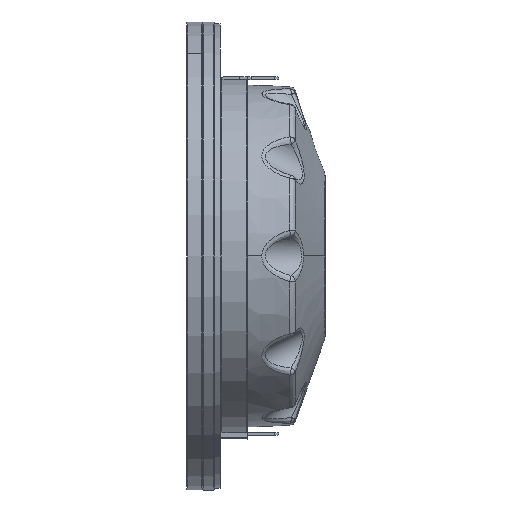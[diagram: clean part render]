
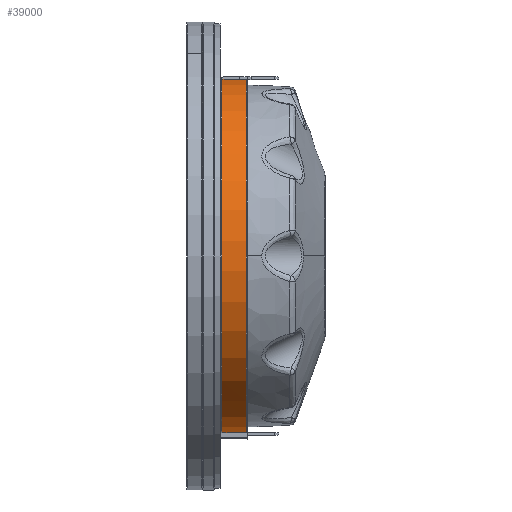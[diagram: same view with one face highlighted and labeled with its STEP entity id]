
A CAD part, left-side view. The second image highlights one B-rep face of the part: STEP entity #39000.
In plain terms, the highlighted cylindrical face has radius 45.5 mm (diameter 91 mm), a partial arc.
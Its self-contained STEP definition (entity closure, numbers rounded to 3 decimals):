
#1043 = DIRECTION ( 'NONE',  ( 0., 1., 0. ) ) ;
#1827 = LINE ( 'NONE', #40349, #48334 ) ;
#2293 = ORIENTED_EDGE ( 'NONE', *, *, #32984, .T. ) ;
#4717 = DIRECTION ( 'NONE',  ( 0., 0., -1. ) ) ;
#5268 = VERTEX_POINT ( 'NONE', #39009 ) ;
#5504 = VERTEX_POINT ( 'NONE', #54759 ) ;
#5723 = EDGE_CURVE ( 'NONE', #54815, #39613, #1827, .T. ) ;
#6013 = CARTESIAN_POINT ( 'NONE',  ( -4., 22.95, 45.324 ) ) ;
#6177 = CARTESIAN_POINT ( 'NONE',  ( -4., 16.7, 45.324 ) ) ;
#6977 = DIRECTION ( 'NONE',  ( 0., 0., -1. ) ) ;
#7184 = LINE ( 'NONE', #45691, #18230 ) ;
#8592 = AXIS2_PLACEMENT_3D ( 'NONE', #33637, #20735, #55605 ) ;
#10266 = CARTESIAN_POINT ( 'NONE',  ( -4., 17.789, -45.324 ) ) ;
#10931 =( BOUNDED_CURVE ( )  B_SPLINE_CURVE ( 3, ( #10266, #35809, #45389, #27436 ),
 .UNSPECIFIED., .F., .T. ) 
 B_SPLINE_CURVE_WITH_KNOTS ( ( 4, 4 ),
 ( 4.8, 4.801 ),
 .UNSPECIFIED. ) 
 CURVE ( )  GEOMETRIC_REPRESENTATION_ITEM ( )  RATIONAL_B_SPLINE_CURVE ( ( 1., 1., 1., 1. ) ) 
 REPRESENTATION_ITEM ( '' )  );
#12572 = EDGE_CURVE ( 'NONE', #41587, #5504, #7184, .T. ) ;
#15592 = DIRECTION ( 'NONE',  ( 0., -1., 0. ) ) ;
#18230 = VECTOR ( 'NONE', #15592, 1000. ) ;
#19305 = AXIS2_PLACEMENT_3D ( 'NONE', #49703, #40410, #6977 ) ;
#20735 = DIRECTION ( 'NONE',  ( 0., -1., 0. ) ) ;
#22473 = EDGE_CURVE ( 'NONE', #5504, #5268, #10931, .T. ) ;
#24017 = ORIENTED_EDGE ( 'NONE', *, *, #28157, .T. ) ;
#26135 = CARTESIAN_POINT ( 'NONE',  ( 0., 16.7, 0. ) ) ;
#27343 = CARTESIAN_POINT ( 'NONE',  ( -4., 22.95, -45.324 ) ) ;
#27436 = CARTESIAN_POINT ( 'NONE',  ( -4.019, 16.7, -45.322 ) ) ;
#28157 = EDGE_CURVE ( 'NONE', #39613, #41587, #39998, .T. ) ;
#29538 = AXIS2_PLACEMENT_3D ( 'NONE', #26135, #1043, #4717 ) ;
#32984 = EDGE_CURVE ( 'NONE', #5268, #54815, #45670, .T. ) ;
#33637 = CARTESIAN_POINT ( 'NONE',  ( 0., 22.95, 0. ) ) ;
#35809 = CARTESIAN_POINT ( 'NONE',  ( -4.006, 17.426, -45.323 ) ) ;
#39000 = ADVANCED_FACE ( 'NONE', ( #40137 ), #44652, .T. ) ;
#39009 = CARTESIAN_POINT ( 'NONE',  ( -4.019, 16.7, -45.322 ) ) ;
#39613 = VERTEX_POINT ( 'NONE', #6013 ) ;
#39998 = CIRCLE ( 'NONE', #8592, 45.5 ) ;
#40137 = FACE_OUTER_BOUND ( 'NONE', #49675, .T. ) ;
#40349 = CARTESIAN_POINT ( 'NONE',  ( -4., 23.95, 45.324 ) ) ;
#40410 = DIRECTION ( 'NONE',  ( 0., -1., 0. ) ) ;
#41587 = VERTEX_POINT ( 'NONE', #27343 ) ;
#44652 = CYLINDRICAL_SURFACE ( 'NONE', #19305, 45.5 ) ;
#44858 = DIRECTION ( 'NONE',  ( 0., 1., 0. ) ) ;
#45389 = CARTESIAN_POINT ( 'NONE',  ( -4.013, 17.063, -45.323 ) ) ;
#45670 = CIRCLE ( 'NONE', #29538, 45.5 ) ;
#45691 = CARTESIAN_POINT ( 'NONE',  ( -4., 23.95, -45.324 ) ) ;
#48334 = VECTOR ( 'NONE', #44858, 1000. ) ;
#49675 = EDGE_LOOP ( 'NONE', ( #53827, #50420, #2293, #50899, #24017 ) ) ;
#49703 = CARTESIAN_POINT ( 'NONE',  ( 0., 23.95, 0. ) ) ;
#50420 = ORIENTED_EDGE ( 'NONE', *, *, #22473, .T. ) ;
#50899 = ORIENTED_EDGE ( 'NONE', *, *, #5723, .T. ) ;
#53827 = ORIENTED_EDGE ( 'NONE', *, *, #12572, .T. ) ;
#54759 = CARTESIAN_POINT ( 'NONE',  ( -4., 17.789, -45.324 ) ) ;
#54815 = VERTEX_POINT ( 'NONE', #6177 ) ;
#55605 = DIRECTION ( 'NONE',  ( 0., 0., -1. ) ) ;
